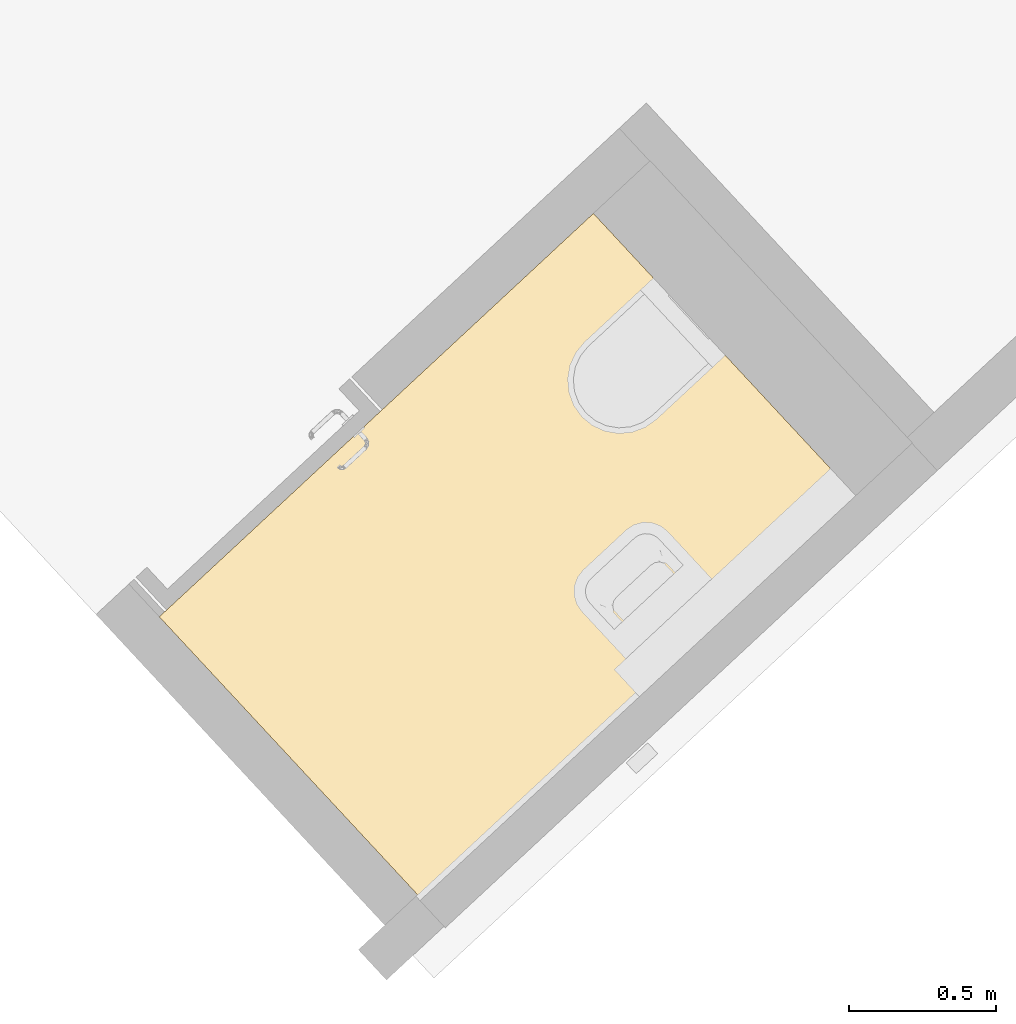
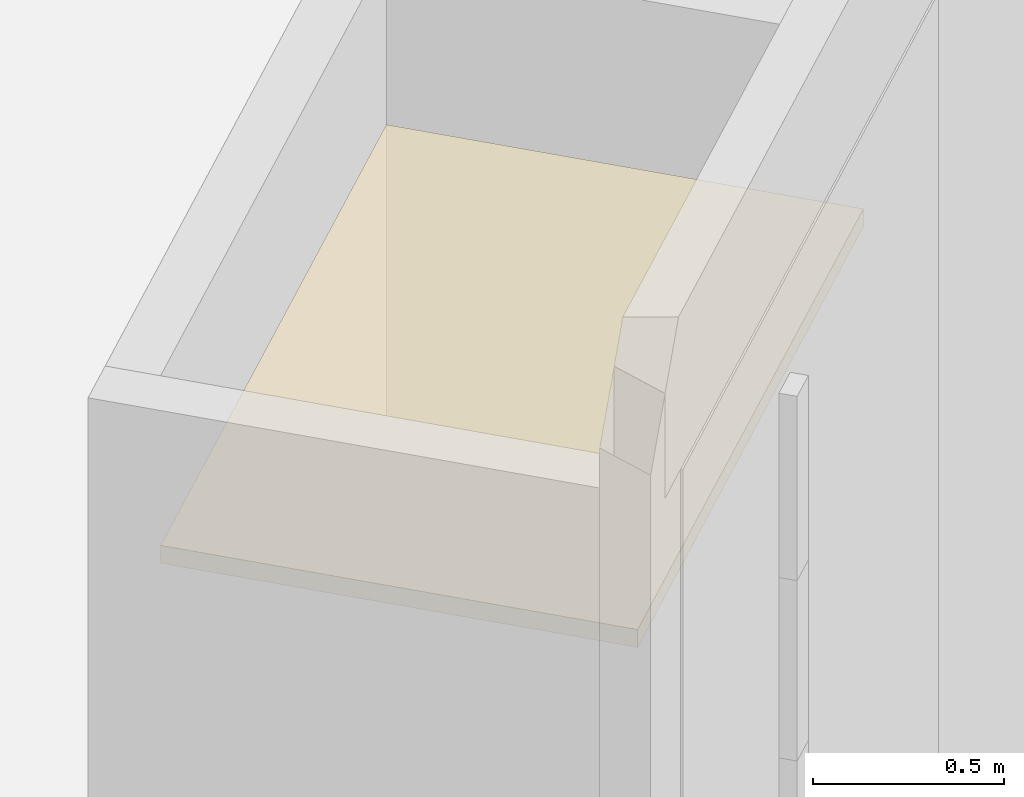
# One storey, part 5 of 7: 1 covering.
"""IFC2X3 building model written with IfcOpenShell, lengths in millimetres."""

from ifc_helpers import new_model, entity, si_unit, converted_unit, derived_unit, direction, frame, frame_2d, origin, origin_with_axes, place, context, subcontext, project, spatial, rectangle, extrude, material, layer, layer_set, layer_usage, type_object, element, save


model = new_model("IFC2X3")

# Units and contexts
model_context = context("Model", 3, precision=0.01, world=origin(), true_north=direction((6.12323399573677e-17, 1.0)))
plan_context = context("Plan", 3, precision=1e-05, world=origin_with_axes())
body_context = subcontext(model_context, "Body", "Model", "MODEL_VIEW")
ifc_project = project(units=[converted_unit("PLANEANGLEUNIT", "DEGREE", entity("IfcPositiveLengthMeasure", 0.0174532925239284), si_unit("PLANEANGLEUNIT", "RADIAN"), dimensions=[0, 0, 0, 0, 0, 0, 0]), si_unit("AREAUNIT", "SQUARE_METRE"), si_unit("LENGTHUNIT", "METRE", prefix="MILLI"), si_unit("MASSUNIT", "GRAM", prefix="KILO"), si_unit("POWERUNIT", "WATT"), si_unit("PRESSUREUNIT", "PASCAL", prefix="KILO"), si_unit("FORCEUNIT", "NEWTON", prefix="KILO"), si_unit("ELECTRICVOLTAGEUNIT", "VOLT"), si_unit("ELECTRICCURRENTUNIT", "AMPERE"), si_unit("THERMODYNAMICTEMPERATUREUNIT", "DEGREE_CELSIUS"), si_unit("TIMEUNIT", "SECOND"), si_unit("VOLUMEUNIT", "CUBIC_METRE"), derived_unit("LINEARVELOCITYUNIT", [(si_unit("LENGTHUNIT", "METRE"), 1), (si_unit("TIMEUNIT", "SECOND"), -1)]), derived_unit("VOLUMETRICFLOWRATEUNIT", [(si_unit("VOLUMEUNIT", "CUBIC_METRE"), 1), (si_unit("TIMEUNIT", "SECOND"), -1)]), derived_unit("THERMALTRANSMITTANCEUNIT", [(si_unit("POWERUNIT", "WATT"), 1), (si_unit("THERMODYNAMICTEMPERATUREUNIT", "KELVIN"), -1), (si_unit("AREAUNIT", "SQUARE_METRE"), -1)]), derived_unit("SOUNDPRESSUREUNIT", [(si_unit("PRESSUREUNIT", "PASCAL"), 1)])], contexts=[model_context, plan_context])

# Site, building, storey
site_placement = place(None, frame((159880.25068742, 140851.808625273, 0.0), z_axis=(0.0, 0.0, 1.0), x_axis=(-0.680735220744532, 0.732529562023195, 0.0)))
site = spatial("IfcSite", under=ifc_project, at=site_placement, Name="Default", CompositionType="ELEMENT")
building_placement = place(site_placement, origin_with_axes())
building = spatial("IfcBuilding", under=site, at=building_placement, CompositionType="ELEMENT")
storey_placement = place(building_placement, frame((0.0, 0.0, 4900.0), z_axis=(0.0, 0.0, 1.0), x_axis=(1.0, 0.0, 0.0)))
storey = spatial("IfcBuildingStorey", under=building, at=storey_placement, Name="001-01", CompositionType="ELEMENT", Elevation=4900.0)

# Covering
ifc_material_1 = material(Name="<Unnamed>")
ifc_layer_1 = layer(ifc_material_1, 45.0)
ifc_material_2 = material(Name="Himling rigitone BIG")
ifc_layer_2 = layer(ifc_material_2, 12.0)
ifc_layer_set = layer_set([ifc_layer_1, ifc_layer_2], Name="Compound Ceiling:Enkel 57mm")
ifc_layer_usage = layer_usage(ifc_layer_set, "AXIS3", "NEGATIVE", 57.0)
covering_type = type_object("IfcCoveringType", Name="Compound Ceiling:Enkel 57mm", PredefinedType="CEILING")
covering_placement = place(storey_placement, frame((48050.0, 9910.99999999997, 2400.0), z_axis=(0.0, 0.0, 1.0), x_axis=(1.0, 0.0, 0.0)))
element("IfcCovering", 1, at=covering_placement, inside=storey, type_object=covering_type, material=ifc_layer_usage, Name="Compound Ceiling:Enkel 57mm", ObjectType="Compound Ceiling:Enkel 57mm", PredefinedType="CEILING", context=body_context, shape_type="SweptSolid", body=[
    extrude(rectangle(XDim=2012.99999999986, YDim=1309.0000000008, at=frame_2d((1.08002495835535e-12, -4.32009983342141e-12), x_axis=(1.0, 0.0))), frame((654.500000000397, 1006.49999999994, 0.0), z_axis=(0.0, 0.0, 1.0), x_axis=(0.0, -1.0, 0.0)), (0.0, 0.0, 1.0), 57.0),
])

save(model, "model.ifc")
